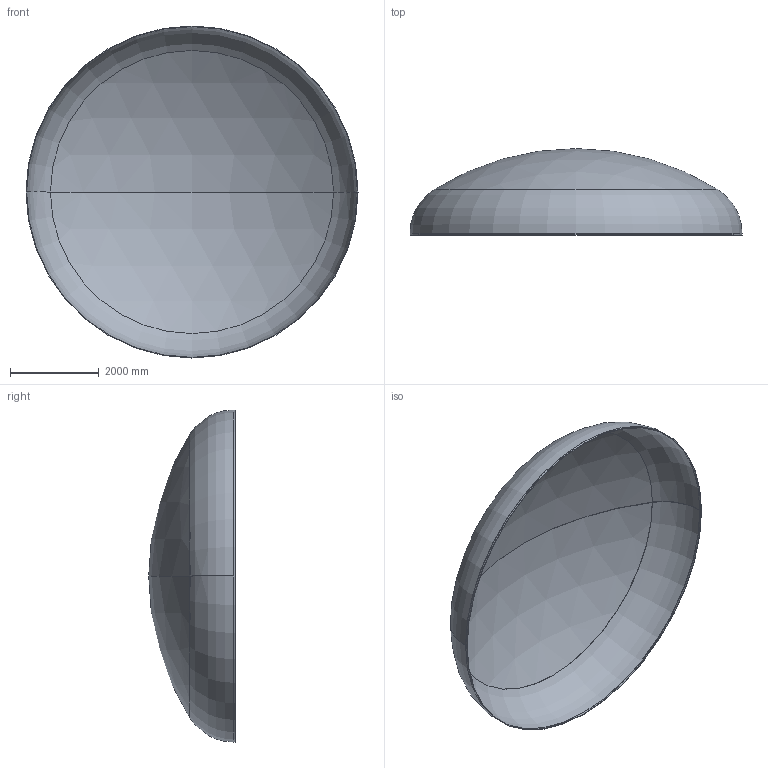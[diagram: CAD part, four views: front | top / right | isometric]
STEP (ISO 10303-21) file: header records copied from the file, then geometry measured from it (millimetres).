
FILE_DESCRIPTION (( 'STEP AP203' ), '1' );
FILE_NAME ('DIN 28013 Korbbogenform_-_Boden DIN 28013 - 7500 x 40 - I - s=13.step', '2016-07-04T10:51:29', ( '' ), ( '' ), 'SwSTEP 2.0', 'SolidWorks 2013', '' );
FILE_SCHEMA (( 'CONFIG_CONTROL_DESIGN' ));
Length unit declared in the file: millimetre
Products named in the file (1): DIN 28013 Korbbogenform_-_Boden DIN 28013 - 7500 x 40 - I - s=13
Bounding box: 7500 x 1953.33 x 7500 mm (x, y, z)
Volume: 805916036.3 mm3; surface area: 124293159.4 mm2
Topology: 1 solids, 1 shells, 13 faces, 24 edges, 14 vertices
Faces by surface type: torus 4, cylinder 4, sphere 4, plane 1
Entity records: 407 total; most frequent: DIRECTION 72, CARTESIAN_POINT 52, ORIENTED_EDGE 48, AXIS2_PLACEMENT_3D 34, EDGE_CURVE 24, CIRCLE 20, EDGE_LOOP 14, VERTEX_POINT 14
